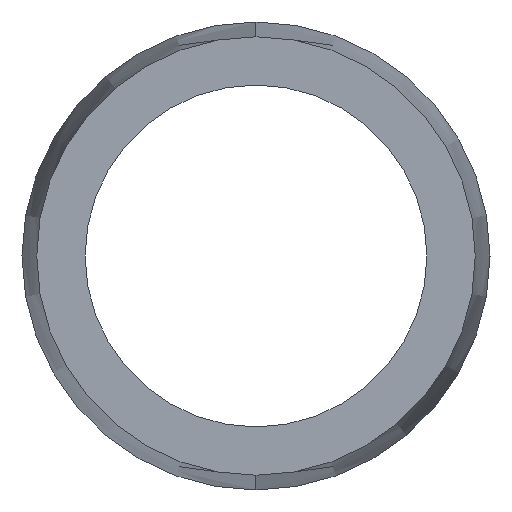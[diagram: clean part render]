
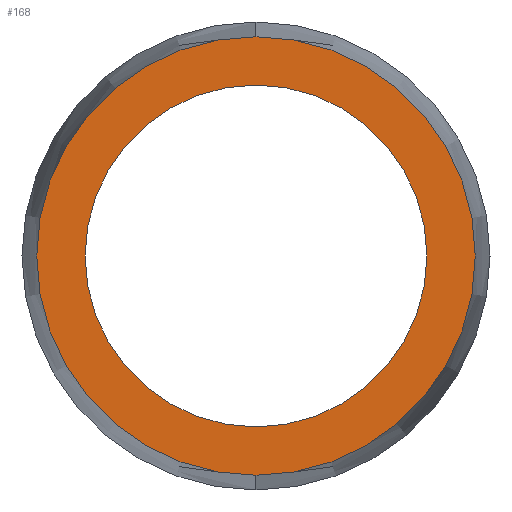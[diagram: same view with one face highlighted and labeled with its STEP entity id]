
A CAD part, left-side view. The second image highlights one B-rep face of the part: STEP entity #168.
In plain terms, the highlighted planar face has unit normal (-1, 0, 0).
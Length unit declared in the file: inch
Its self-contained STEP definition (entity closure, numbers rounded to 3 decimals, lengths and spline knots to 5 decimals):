
#8 = DIRECTION ( 'NONE',  ( 1., 0., 0. ) ) ;
#13 = CIRCLE ( 'NONE', #253, 0.31622 ) ;
#17 = CIRCLE ( 'NONE', #21, 0.2465 ) ;
#21 = AXIS2_PLACEMENT_3D ( 'NONE', #144, #85, #201 ) ;
#24 = CARTESIAN_POINT ( 'NONE',  ( 0., 0., -0.31622 ) ) ;
#40 = CARTESIAN_POINT ( 'NONE',  ( 0., 0., 0.2465 ) ) ;
#44 = AXIS2_PLACEMENT_3D ( 'NONE', #330, #8, #112 ) ;
#69 = DIRECTION ( 'NONE',  ( 0., 0., 1. ) ) ;
#75 = ORIENTED_EDGE ( 'NONE', *, *, #302, .T. ) ;
#77 = AXIS2_PLACEMENT_3D ( 'NONE', #188, #287, #313 ) ;
#85 = DIRECTION ( 'NONE',  ( -1., 0., 0. ) ) ;
#86 = DIRECTION ( 'NONE',  ( -1., 0., 0. ) ) ;
#96 = ORIENTED_EDGE ( 'NONE', *, *, #254, .F. ) ;
#105 = FACE_BOUND ( 'NONE', #245, .T. ) ;
#112 = DIRECTION ( 'NONE',  ( 0., 0., -1. ) ) ;
#122 = VERTEX_POINT ( 'NONE', #24 ) ;
#124 = DIRECTION ( 'NONE',  ( -1., 0., 0. ) ) ;
#134 = ORIENTED_EDGE ( 'NONE', *, *, #159, .F. ) ;
#144 = CARTESIAN_POINT ( 'NONE',  ( 0., 0., 0. ) ) ;
#156 = CARTESIAN_POINT ( 'NONE',  ( 0., 0., 0. ) ) ;
#158 = AXIS2_PLACEMENT_3D ( 'NONE', #288, #124, #230 ) ;
#159 = EDGE_CURVE ( 'NONE', #175, #283, #17, .T. ) ;
#168 = ADVANCED_FACE ( 'NONE', ( #105, #238 ), #227, .F. ) ;
#169 = ORIENTED_EDGE ( 'NONE', *, *, #285, .T. ) ;
#175 = VERTEX_POINT ( 'NONE', #178 ) ;
#176 = CIRCLE ( 'NONE', #77, 0.2465 ) ;
#178 = CARTESIAN_POINT ( 'NONE',  ( 0., 0., -0.2465 ) ) ;
#179 = VERTEX_POINT ( 'NONE', #252 ) ;
#188 = CARTESIAN_POINT ( 'NONE',  ( 0., 0., 0. ) ) ;
#201 = DIRECTION ( 'NONE',  ( 0., 0., 1. ) ) ;
#227 = PLANE ( 'NONE',  #44 ) ;
#230 = DIRECTION ( 'NONE',  ( 0., 0., 1. ) ) ;
#238 = FACE_OUTER_BOUND ( 'NONE', #270, .T. ) ;
#245 = EDGE_LOOP ( 'NONE', ( #96, #134 ) ) ;
#252 = CARTESIAN_POINT ( 'NONE',  ( 0., 0., 0.31622 ) ) ;
#253 = AXIS2_PLACEMENT_3D ( 'NONE', #156, #86, #69 ) ;
#254 = EDGE_CURVE ( 'NONE', #283, #175, #176, .T. ) ;
#255 = CIRCLE ( 'NONE', #158, 0.31622 ) ;
#270 = EDGE_LOOP ( 'NONE', ( #75, #169 ) ) ;
#283 = VERTEX_POINT ( 'NONE', #40 ) ;
#285 = EDGE_CURVE ( 'NONE', #179, #122, #255, .T. ) ;
#287 = DIRECTION ( 'NONE',  ( -1., 0., 0. ) ) ;
#288 = CARTESIAN_POINT ( 'NONE',  ( 0., 0., 0. ) ) ;
#302 = EDGE_CURVE ( 'NONE', #122, #179, #13, .T. ) ;
#313 = DIRECTION ( 'NONE',  ( 0., 0., 1. ) ) ;
#330 = CARTESIAN_POINT ( 'NONE',  ( 0., 0.2465, 0. ) ) ;
